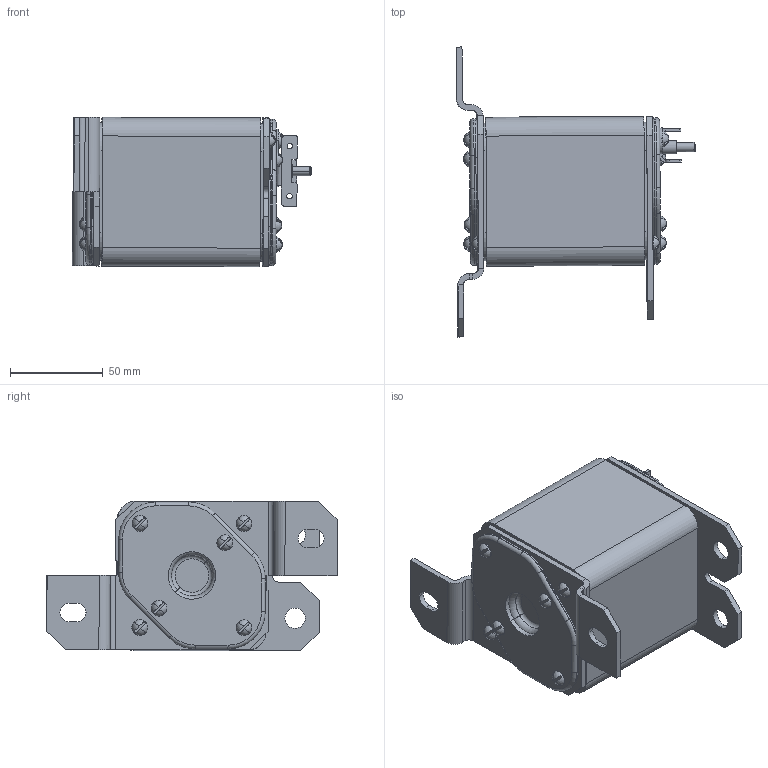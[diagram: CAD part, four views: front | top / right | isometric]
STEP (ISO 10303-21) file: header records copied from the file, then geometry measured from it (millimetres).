
FILE_DESCRIPTION (( 'STEP AP214' ), '1' );
FILE_NAME ('Ïðåäîõðàíèòåëü ÏÏ57-39982-èñï2.STEP', '2022-09-22T11:25:33', ( '' ), ( '' ), 'SwSTEP 2.0', 'SolidWorks 2018', '' );
FILE_SCHEMA (( 'AUTOMOTIVE_DESIGN' ));
Length unit declared in the file: millimetre
Products named in the file (18): Ïðîêëàäêà ÃÆÈÊ.741125.009; 暑腼圜铌 闷仁.725512.006; 署赅 闷仁.745152.009_-02; Óêàçàòåëü ÃÆÈÊ.305441.004ÑÁ; ﾏ跖浯 ﾃﾆﾈﾊ.753511.003_20,8; Ïðåäîõðàíèòåëü ÏÏ57-39982-èñï2; Ïðîêëàäêà ÃÆÈÊ.741332.004_‘ ¢¬ïâ¨­®©; Ïðîêëàäêà ÃÆÈÊ.711111.005; 噪囗弼 闷仁.745342.018; 妈眚 闷仁.758161.003_儐垔.758161.003-05; Òàáëè÷êà 32õ48; Ñêîáà ÃÆÈÊ.745316.007_-00; -01; 噪囗弼 闷仁.741378.003; 扻豵鵨 弝偫80 85; 暑腼圜铌 闷仁.725512.005; Çàæèì ÃÆÈÊ.758584.002_¤«ï á¡; 署赅 闷仁.745152.009_-00; Ïðîâîëîêà_¤«ï á¡ ãª § â¥«ï
Assembly tree (30 placements, depth 3):
  Ïðåäîõðàíèòåëü ÏÏ57-39982-èñï2
    扻豵鵨 弝偫80 85
    Ïðîêëàäêà ÃÆÈÊ.741125.009  x2
    噪囗弼 闷仁.745342.018
    噪囗弼 闷仁.741378.003
    Ïðîêëàäêà ÃÆÈÊ.741332.004_‘ ¢¬ïâ¨­®©  x2
    署赅 闷仁.745152.009_-00
    署赅 闷仁.745152.009_-02
    Óêàçàòåëü ÃÆÈÊ.305441.004ÑÁ
      暑腼圜铌 闷仁.725512.005
      暑腼圜铌 闷仁.725512.006
      ﾏ跖浯 ﾃﾆﾈﾊ.753511.003_20,8
      Çàæèì ÃÆÈÊ.758584.002_¤«ï á¡
      Ïðîêëàäêà ÃÆÈÊ.711111.005
      Ïðîâîëîêà_¤«ï á¡ ãª § â¥«ï
    Ñêîáà ÃÆÈÊ.745316.007_-00; -01
    妈眚 闷仁.758161.003_儐垔.758161.003-05  x12
    Òàáëè÷êà 32õ48
Bounding box: 128.95 x 156.09 x 80.56 mm (x, y, z)
Volume: 392212.7 mm3; surface area: 151698.3 mm2
Topology: 29 solids, 29 shells, 802 faces, 1898 edges, 1180 vertices
Faces by surface type: plane 358, cylinder 318, torus 58, cone 38, sphere 24, bspline 6
Entity records: 23616 total; most frequent: CARTESIAN_POINT 8321, DIRECTION 3246, ORIENTED_EDGE 2864, EDGE_CURVE 1432, AXIS2_PLACEMENT_3D 1201, VERTEX_POINT 878, VECTOR 844, LINE 844
